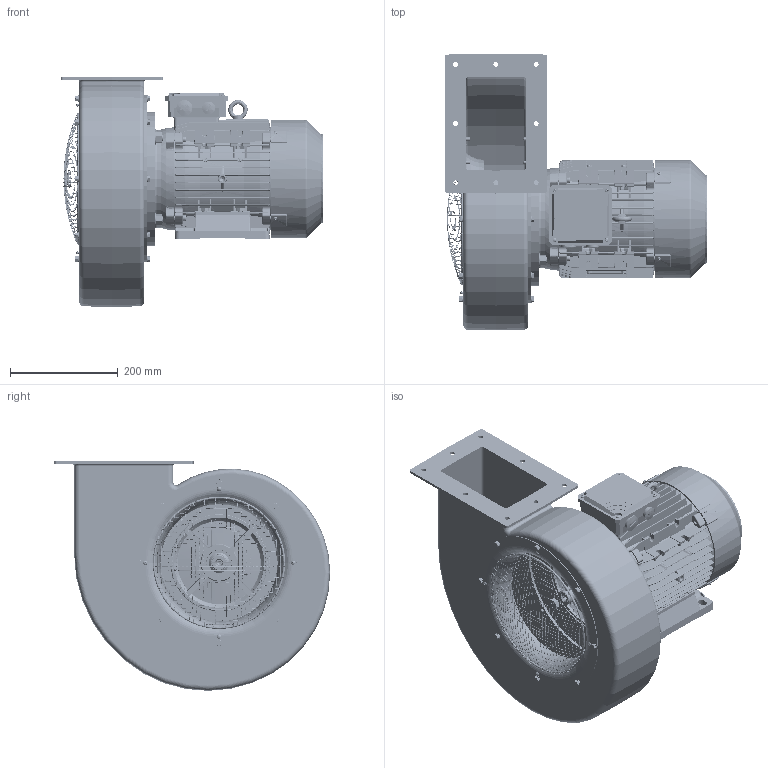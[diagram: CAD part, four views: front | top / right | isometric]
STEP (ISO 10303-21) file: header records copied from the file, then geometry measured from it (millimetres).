
FILE_DESCRIPTION(/* description */ (''),/* implementation_level */ '2;1');
FILE_NAME(/* name */ 'T:\Drawings\Standard Drawings\DATA Web Downloads\3D FILES\MR280L _ 3D12-0171.stp',/* time_stamp */ '2015-02-18T16:04:30+00:00',/* author */ ('mtinkler'),/* organization */ (''),/* preprocessor_version */ 'ST-DEVELOPER v15.6',/* originating_system */ 'Autodesk Inventor 2015',/* authorisation */ '');
FILE_SCHEMA (('AUTOMOTIVE_DESIGN { 1 0 10303 214 3 1 1 }'));
Products named in the file (1): 3D12-0171
Bounding box: 488 x 514.05 x 427.17 mm (x, y, z)
Volume: 5370091.8 mm3; surface area: 2336798.9 mm2
Topology: 53 solids, 89 shells, 9174 faces, 28027 edges, 18322 vertices
Faces by surface type: plane 3881, cylinder 2616, bspline 1150, cone 859, torus 462, sphere 206
Full cylindrical faces by diameter (mm): 3.3 x4, 3.5 x8, 3.505 x4, 4.5 x4, 4.917 x20, 5 x4, 6 x20, 6.647 x3, 7 x9, 7.5 x8, 8 x13, 8.153 x4, 8.376 x1, 8.5 x8, 9 x8, 10 x4, 10.106 x4, 10.5 x1, 10.6 x4, 11.6 x4, 12 x4, 13.3 x4, 13.5 x4, 18.376 x1, 21 x1, 22.835 x1, 24 x1, 25.4 x4, 26 x1, 27.4 x1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
Entity records: 383823 total; most frequent: CARTESIAN_POINT 148483, ORIENTED_EDGE 48580, DIRECTION 42982, EDGE_CURVE 24288, VERTEX_POINT 16140, AXIS2_PLACEMENT_3D 15900, EDGE_LOOP 12511, LINE 11182
